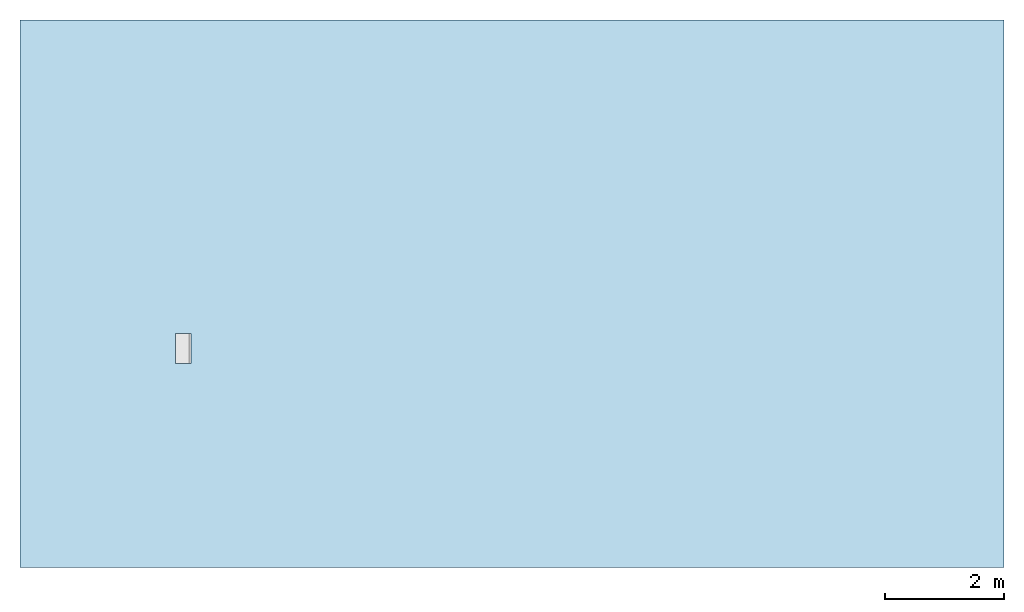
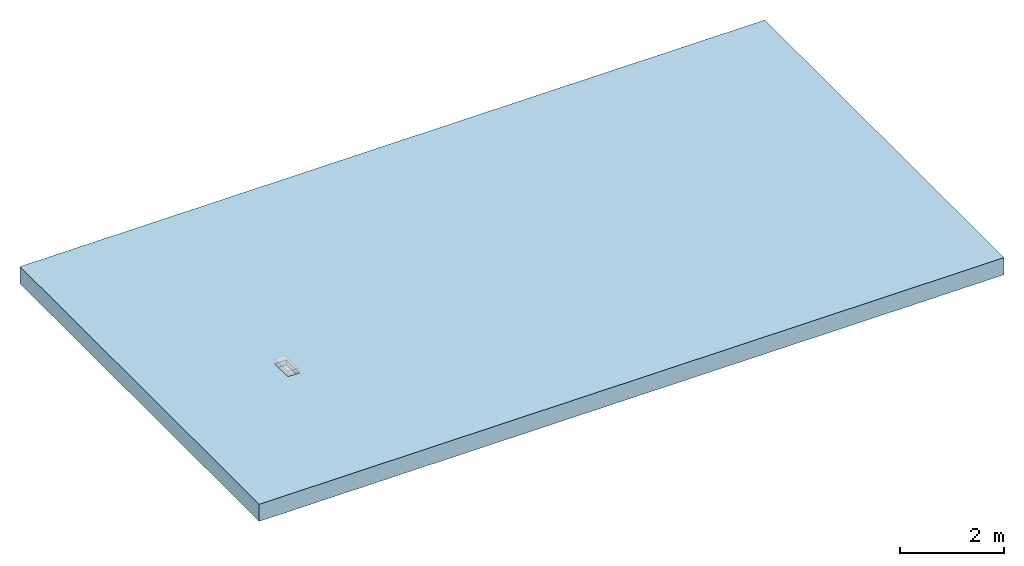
# One storey, part 1 of 2: 1 slab, 1 opening.
"""IFC2X3 building model written with IfcOpenShell, lengths in millimetres."""

from ifc_helpers import new_model, entity, si_unit, converted_unit, direction, frame, frame_2d, origin, origin_2d_with_axis, place, context, subcontext, project, spatial, rectangle, extrude, material, layer, layer_set, layer_usage, element, save


model = new_model("IFC2X3")

# Units and contexts
model_context = context("Model", 3, precision=1e-06, world=origin(), true_north=direction((2.0, 6.12303176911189e-17, 1.0)))
context_of_model = context(None, 3, precision=1e-06, world=origin(), true_north=direction((2.0, 6.12303176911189e-17, 1.0)))
body_context = subcontext(model_context, "Body", "Model", "MODEL_VIEW")
ifc_project = project(units=[si_unit("LENGTHUNIT", "METRE", prefix="MILLI"), si_unit("AREAUNIT", "SQUARE_METRE", prefix="MILLI"), si_unit("VOLUMEUNIT", "CUBIC_METRE", prefix="MILLI"), converted_unit("PLANEANGLEUNIT", "DEGREE", entity("IfcRatioMeasure", 0.0174532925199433), si_unit("PLANEANGLEUNIT", "RADIAN"), dimensions=[0, 0, 0, 0, 0, 0, 0]), si_unit("TIMEUNIT", "SECOND")], contexts=[model_context, context_of_model])

# Site, building, storey
site_placement = place(None, origin())
site = spatial("IfcSite", under=ifc_project, at=site_placement, Name="Default", CompositionType="ELEMENT")
building_placement = place(site_placement, origin())
building = spatial("IfcBuilding", under=site, at=building_placement, CompositionType="ELEMENT")
storey_placement = place(building_placement, origin())
storey = spatial("IfcBuildingStorey", under=building, at=storey_placement, Name="Level 1", CompositionType="ELEMENT", Elevation=0.0)

# Slab, opening
ifc_material = material(Name="Plant")
ifc_layer = layer(ifc_material, 400.0)
ifc_layer_set = layer_set([ifc_layer], Name="Floor:Generic Floor - 400mm")
ifc_layer_usage = layer_usage(ifc_layer_set, "AXIS3", "POSITIVE", 0.0)
slab_placement = place(storey_placement, frame((-17967.0691536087, -3738.31688706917, -400.0)))
slab = element("IfcSlab", 1, at=slab_placement, inside=storey, material=ifc_layer_usage, Name="Floor:Generic Floor - 400mm", ObjectType="Floor:Generic Floor - 400mm", PredefinedType="FLOOR", context=body_context, shape_type="SweptSolid", body=[
    extrude(rectangle(XDim=9180.0, YDim=16500.0, at=frame_2d((0.0, 0.0), x_axis=(0.0, -1.0))), frame((8250.0, 4590.0, 400.0), z_axis=(0.0, 0.0, -1.0), x_axis=(-1.0, 0.0, 0.0)), (0.0, 0.0, 1.0), 400.0),
])
opening_placement = place(slab_placement, origin())
element("IfcOpeningElement", 2, at=opening_placement, cuts=slab, ObjectType="Recess", context=body_context, shape_type="SweptSolid", body=[
    extrude(rectangle(XDim=259.999999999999, YDim=500.000000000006, at=origin_2d_with_axis()), frame((2737.91502003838, 3671.65763662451, 290.0)), (0.0, 0.0, 1.0), 109.999999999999),
])

save(model, "model.ifc")
